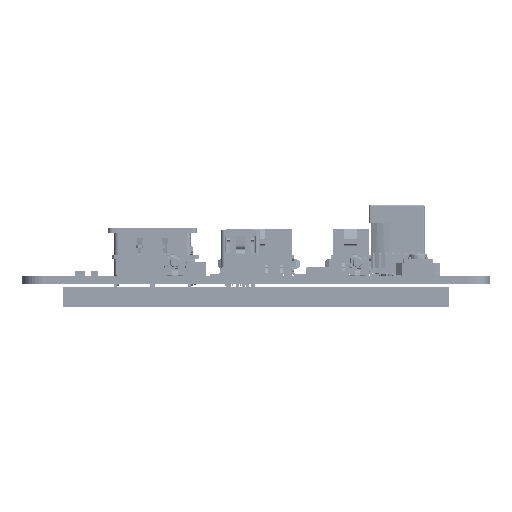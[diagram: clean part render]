
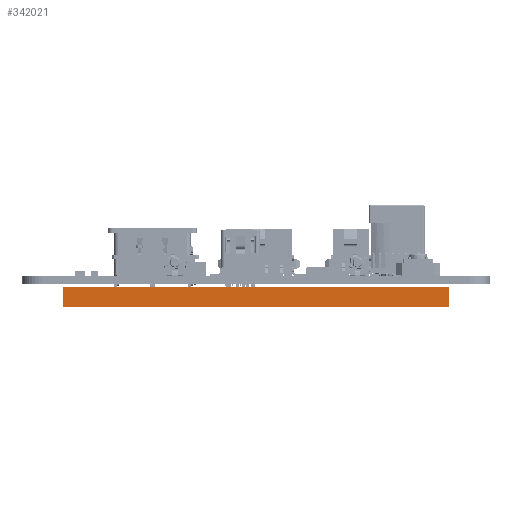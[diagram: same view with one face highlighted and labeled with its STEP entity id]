
A CAD part, left-side view. The second image highlights one B-rep face of the part: STEP entity #342021.
In plain terms, the highlighted planar face has unit normal (-1, 0, 0) as drawn and (1, 0, 0) by its records, which use the part's own axes.
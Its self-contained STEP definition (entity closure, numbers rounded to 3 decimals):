
#38667 = LINE ( 'NONE', #458920, #219615 ) ;
#88681 = DIRECTION ( 'NONE',  ( 0., 1., 0. ) ) ;
#111768 = ORIENTED_EDGE ( 'NONE', *, *, #135322, .T. ) ;
#121927 = DIRECTION ( 'NONE',  ( 0., 1., 0. ) ) ;
#135322 = EDGE_CURVE ( 'NONE', #415883, #191307, #508859, .T. ) ;
#144605 = PLANE ( 'NONE',  #494686 ) ;
#147363 = VERTEX_POINT ( 'NONE', #196524 ) ;
#180224 = EDGE_CURVE ( 'NONE', #415883, #496125, #38667, .T. ) ;
#191307 = VERTEX_POINT ( 'NONE', #550274 ) ;
#196524 = CARTESIAN_POINT ( 'NONE',  ( 60.35, 37.9, 0. ) ) ;
#219615 = VECTOR ( 'NONE', #121927, 1000. ) ;
#223909 = CARTESIAN_POINT ( 'NONE',  ( 60.35, 37.9, 0. ) ) ;
#231289 = ORIENTED_EDGE ( 'NONE', *, *, #437662, .T. ) ;
#274904 = VECTOR ( 'NONE', #590003, 1000. ) ;
#342021 = ADVANCED_FACE ( 'NONE', ( #366766 ), #144605, .F. ) ;
#348509 = CARTESIAN_POINT ( 'NONE',  ( 60.35, 37.9, 3.95 ) ) ;
#366766 = FACE_OUTER_BOUND ( 'NONE', #618162, .T. ) ;
#372635 = LINE ( 'NONE', #223909, #620951 ) ;
#394963 = CARTESIAN_POINT ( 'NONE',  ( 60.35, 37.9, 3.95 ) ) ;
#415789 = VECTOR ( 'NONE', #445353, 1000. ) ;
#415883 = VERTEX_POINT ( 'NONE', #520677 ) ;
#431049 = CARTESIAN_POINT ( 'NONE',  ( 60.35, 37.9, 3.95 ) ) ;
#437662 = EDGE_CURVE ( 'NONE', #191307, #147363, #372635, .T. ) ;
#445353 = DIRECTION ( 'NONE',  ( 0., 0., -1. ) ) ;
#458920 = CARTESIAN_POINT ( 'NONE',  ( 60.35, 37.9, 3.95 ) ) ;
#488759 = ORIENTED_EDGE ( 'NONE', *, *, #507661, .F. ) ;
#494686 = AXIS2_PLACEMENT_3D ( 'NONE', #431049, #578483, #582598 ) ;
#496125 = VERTEX_POINT ( 'NONE', #394963 ) ;
#498602 = ORIENTED_EDGE ( 'NONE', *, *, #180224, .F. ) ;
#507661 = EDGE_CURVE ( 'NONE', #496125, #147363, #544100, .T. ) ;
#508859 = LINE ( 'NONE', #545777, #274904 ) ;
#520677 = CARTESIAN_POINT ( 'NONE',  ( 60.35, -37.9, 3.95 ) ) ;
#544100 = LINE ( 'NONE', #348509, #415789 ) ;
#545777 = CARTESIAN_POINT ( 'NONE',  ( 60.35, -37.9, 3.95 ) ) ;
#550274 = CARTESIAN_POINT ( 'NONE',  ( 60.35, -37.9, 0. ) ) ;
#578483 = DIRECTION ( 'NONE',  ( -1., 0., 0. ) ) ;
#582598 = DIRECTION ( 'NONE',  ( 0., -1., 0. ) ) ;
#590003 = DIRECTION ( 'NONE',  ( 0., 0., -1. ) ) ;
#618162 = EDGE_LOOP ( 'NONE', ( #231289, #488759, #498602, #111768 ) ) ;
#620951 = VECTOR ( 'NONE', #88681, 1000. ) ;
